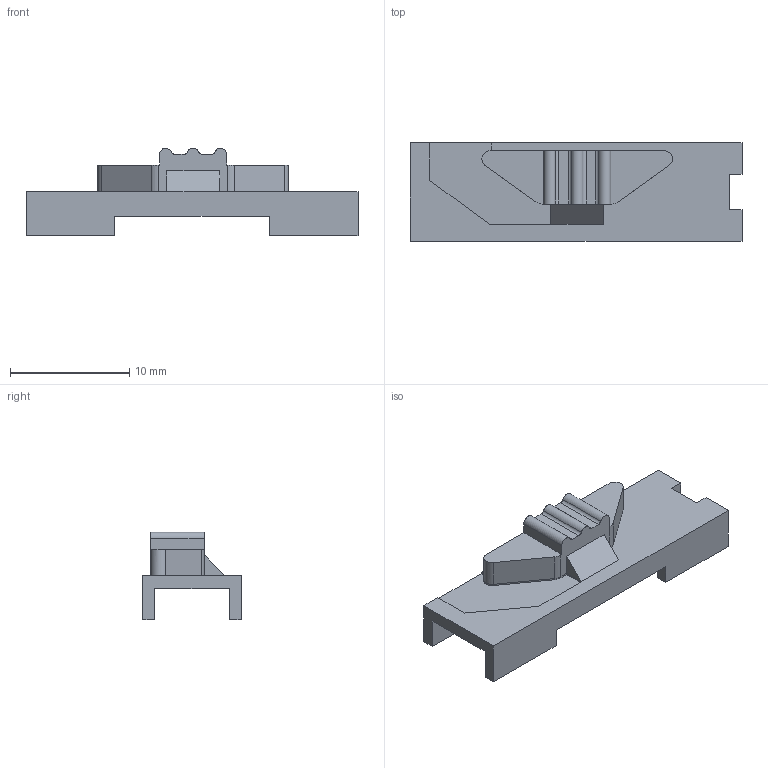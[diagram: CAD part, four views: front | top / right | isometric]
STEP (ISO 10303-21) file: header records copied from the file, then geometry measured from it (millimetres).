
FILE_DESCRIPTION(/* description */ (''),/* implementation_level */ '2;1');
FILE_NAME(/* name */ 'slider',/* time_stamp */ '2026-04-10T20:24:18+09:00',/* author */ (''),/* organization */ (''),/* preprocessor_version */ 'ST-DEVELOPER v16.5',/* originating_system */ '',/* authorisation */ '');
FILE_SCHEMA (('CONFIG_CONTROL_DESIGN'));
Length unit declared in the file: millimetre
Products named in the file (1): Document
Bounding box: 27.85 x 8.27 x 7.34 mm (x, y, z)
Volume: 459.9 mm3; surface area: 976.8 mm2
Topology: 1 solids, 1 shells, 82 faces, 218 edges, 143 vertices
Faces by surface type: plane 63, cylinder 13, bspline 6
Entity records: 2300 total; most frequent: CARTESIAN_POINT 727, ORIENTED_EDGE 436, EDGE_CURVE 218, B_SPLINE_CURVE_WITH_KNOTS 194, VERTEX_POINT 143, EDGE_LOOP 87, ADVANCED_FACE 82, FACE_OUTER_BOUND 82
